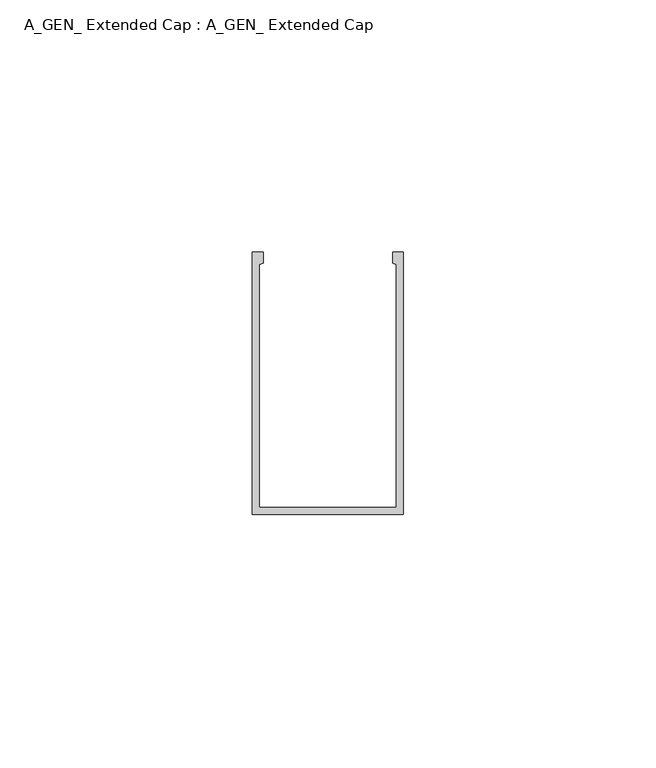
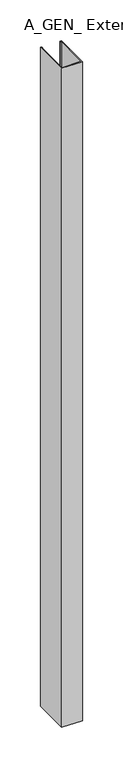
"""IFC4 building model written with IfcOpenShell, lengths in millimetres: proxy geometry, A_GEN_ Extended Cap : A_GEN_ Extended Cap."""

from ifc_helpers import new_model, si_unit, origin, origin_with_axes, place, context, project, spatial, polyline, outline, extrude, source, transform, mapped, element, save


def a_gen_extended_cap_a_gen_extended_cap_70ccaa3f(model_context):
    return source(origin(), model_context, "Body", "SweptSolid", [
        extrude(outline(polyline([(0.0, -52.1007192), (0.0, 0.0), (2.149007, 0.0), (2.149007, -2.2419727), (1.4, -2.4826662), (1.4, -50.7007192), (28.6, -50.7007192), (28.6, -2.4826662), (27.850993, -2.2419727), (27.850993, 0.0), (30.0, 0.0), (30.0, -52.1007192), (0.0, -52.1007192)])), origin_with_axes(), (0.0, 0.0, 1.0), 992.5516144),
    ])


if __name__ == "__main__":
    model = new_model("IFC4")
    model_context = context("Model", 3, world=origin())
    ifc_project = project(units=[si_unit("LENGTHUNIT", "METRE", prefix="MILLI")], contexts=[model_context])
    site = spatial("IfcSite", under=ifc_project)
    building = spatial("IfcBuilding", under=site)
    placement = place(None, origin())
    a_gen_extended_cap_a_gen_extended_cap_shape = a_gen_extended_cap_a_gen_extended_cap_70ccaa3f(model_context)
    element("IfcBuildingElementProxy", 1, Name="A_GEN_ Extended Cap : A_GEN_ Extended Cap", ObjectType="A_GEN_ Extended Cap : A_GEN_ Extended Cap", at=placement, inside=building, context=model_context, shape_type="MappedRepresentation", body=[
        mapped(a_gen_extended_cap_a_gen_extended_cap_shape, transform((0.0, 0.0, 0.0), x_axis=(1.0, 0.0, 0.0), y_axis=(0.0, 1.0, 0.0), z_axis=(0.0, 0.0, 1.0))),
    ])
    save(model, "model.ifc")
